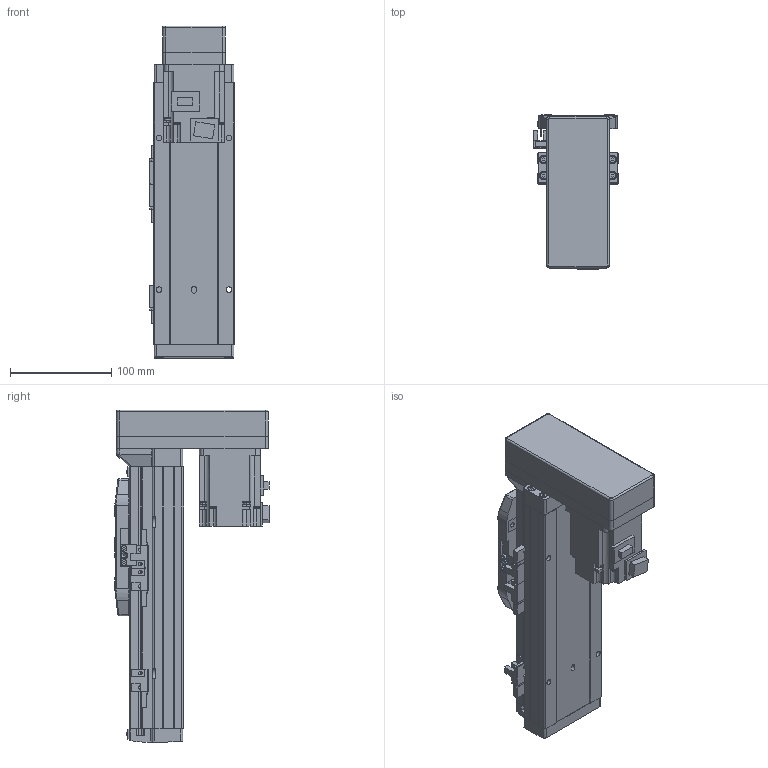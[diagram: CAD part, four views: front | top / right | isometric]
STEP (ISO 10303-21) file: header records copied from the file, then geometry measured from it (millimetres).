
FILE_DESCRIPTION (( 'STEP AP214' ), '1' );
FILE_NAME ('GSH8-100-BM-M20-1.step', '2025-01-07T06:07:24', ( '' ), ( '' ), 'SwSTEP 2.0', 'SolidWorks 2012', '' );
FILE_SCHEMA (( 'AUTOMOTIVE_DESIGN' ));
Length unit declared in the file: millimetre
Products named in the file (5): GSH8-100-BM-M20-1; GSH8-BL-008; HG-KR23_200W_Motor; GSH8-BL-011-100-M20; GSH8-GY-004
Assembly tree (4 placements, depth 2):
  GSH8-100-BM-M20-1
    GSH8-BL-011-100-M20
    GSH8-GY-004
    GSH8-BL-008
    HG-KR23_200W_Motor
Bounding box: 84 x 152.3 x 328.2 mm (x, y, z)
Volume: 1324282.5 mm3; surface area: 271746.1 mm2
Topology: 4 solids, 8 shells, 1070 faces, 2786 edges, 1788 vertices
Faces by surface type: plane 617, cylinder 357, torus 42, cone 26, bspline 24, sphere 4
Entity records: 42138 total; most frequent: CARTESIAN_POINT 9593, DIRECTION 5644, ORIENTED_EDGE 5556, EDGE_CURVE 2778, AXIS2_PLACEMENT_3D 1891, LINE 1862, VECTOR 1862, VERTEX_POINT 1784
